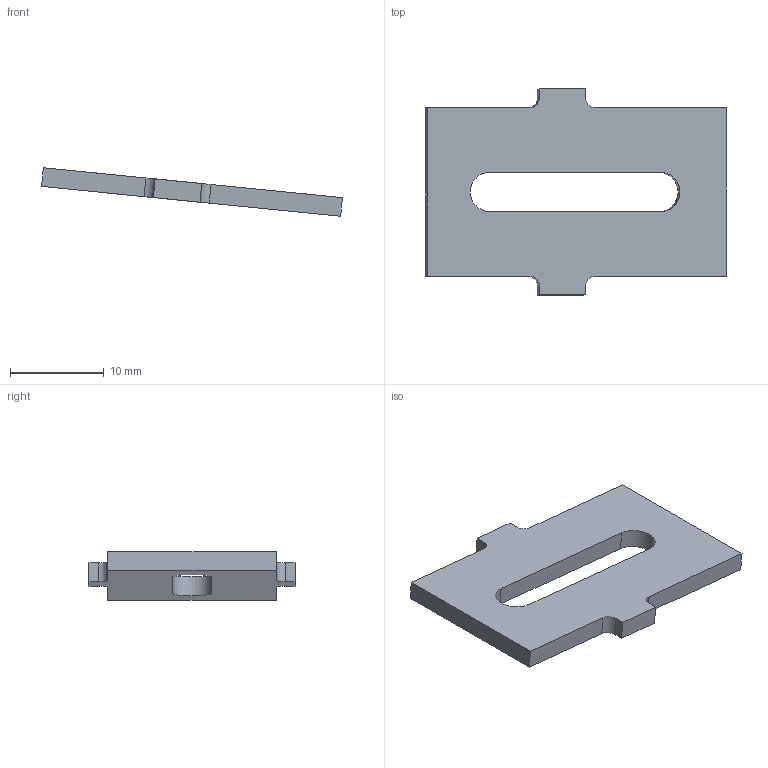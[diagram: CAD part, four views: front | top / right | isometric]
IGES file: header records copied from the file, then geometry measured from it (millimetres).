
Start section: START RECORD GO HERE.
Global section: file name: FR_11001_8 (Frame Throttle).igs; native system: IBM CATIA IGES - CATIA Version 5 Release 19 ; preprocessor: CATIA Version 5 Release 19 ; author: jacqu; organization: ASUS-TUF-JACQUE; date: 20200226.091605; units: millimetre
Bounding box: 32.14 x 22 x 5.18 mm (x, y, z)
Surface area: 1328.5 mm2 (no closed solid volume)
Topology: 0 solids, 0 shells, 22 faces, 120 edges, 120 vertices
Faces by surface type: plane 16, revolution 6
